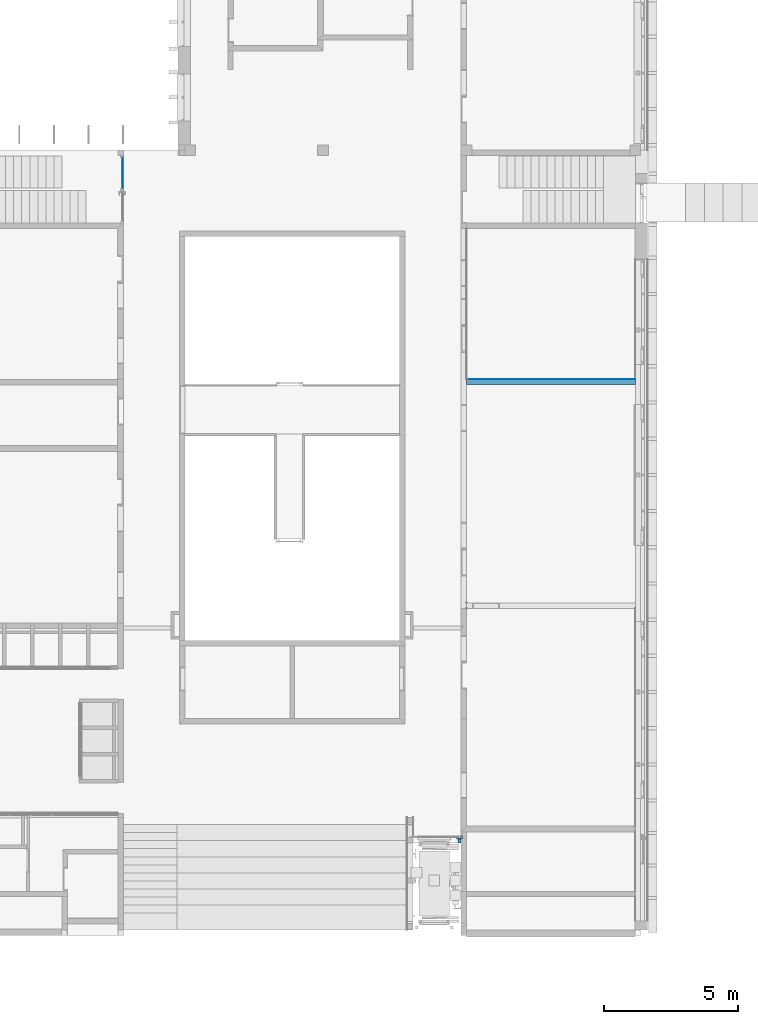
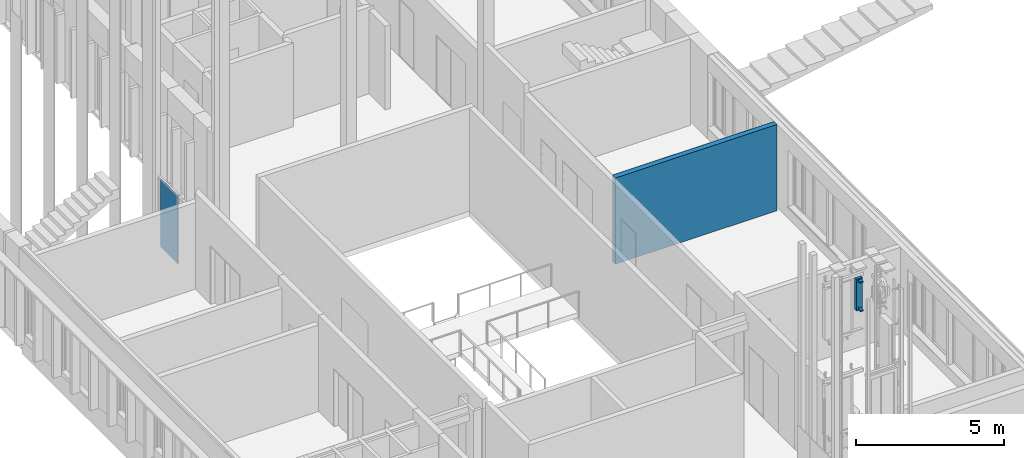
# One storey, part 54 of 89: 5 building element parts, 4 elements without a shape of their own.
"""IFC2X3 building model written with IfcOpenShell, lengths in millimetres."""

from ifc_helpers import new_model, entity, si_unit, converted_unit, derived_unit, money_unit, direction, frame, origin_with_axes, place, context, subcontext, project, spatial, polyline, outline, extrude, boolean, faceted_brep, material, type_object, element, aggregate, save


model = new_model("IFC2X3")

# Units and contexts
model_context = context("Model", 3, precision=0.01, world=origin_with_axes(), true_north=direction((0.0, 1.0)))
body_context = subcontext(model_context, "Body", "Model", "MODEL_VIEW")
ifc_project = project(units=[si_unit("LENGTHUNIT", "METRE", prefix="MILLI"), si_unit("AREAUNIT", "SQUARE_METRE"), si_unit("VOLUMEUNIT", "CUBIC_METRE"), converted_unit("PLANEANGLEUNIT", "DEGREE", entity("IfcPlaneAngleMeasure", 0.0174532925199), si_unit("PLANEANGLEUNIT", "RADIAN"), dimensions=[0, 0, 0, 0, 0, 0, 0]), si_unit("SOLIDANGLEUNIT", "STERADIAN"), money_unit("EUR"), converted_unit("TIMEUNIT", "Year", entity("IfcTimeMeasure", 31556926.0), si_unit("TIMEUNIT", "SECOND"), dimensions=[0, 0, 1, 0, 0, 0, 0]), si_unit("MASSUNIT", "GRAM", prefix="KILO"), si_unit("THERMODYNAMICTEMPERATUREUNIT", "DEGREE_CELSIUS"), si_unit("LUMINOUSINTENSITYUNIT", "LUMEN"), si_unit("ENERGYUNIT", "JOULE", prefix="MEGA"), derived_unit("THERMALCONDUCTANCEUNIT", [(si_unit("POWERUNIT", "WATT"), 1), (si_unit("LENGTHUNIT", "METRE"), -1), (si_unit("THERMODYNAMICTEMPERATUREUNIT", "KELVIN"), -1)]), derived_unit("SPECIFICHEATCAPACITYUNIT", [(si_unit("ENERGYUNIT", "JOULE"), 1), (si_unit("MASSUNIT", "GRAM", prefix="KILO"), -1), (si_unit("THERMODYNAMICTEMPERATUREUNIT", "KELVIN"), -1)]), derived_unit("MASSDENSITYUNIT", [(si_unit("MASSUNIT", "GRAM", prefix="KILO"), 1), (si_unit("VOLUMEUNIT", "CUBIC_METRE"), -1)])], contexts=[model_context])

# Site, building, storey
site_placement = place(None, origin_with_axes())
site = spatial("IfcSite", under=ifc_project, at=site_placement, Name="Puškini 31, Narva", CompositionType="ELEMENT")
building_placement = place(site_placement, origin_with_axes())
building = spatial("IfcBuilding", under=site, at=building_placement, Name="Narva Riigigümnaasium", CompositionType="ELEMENT")
storey_placement = place(building_placement, frame((0.0, 0.0, -3300.0), z_axis=(0.0, 0.0, 1.0), x_axis=(1.0, 0.0, 0.0)))
storey = spatial("IfcBuildingStorey", under=building, at=storey_placement, Name="1.korrus -3.3", CompositionType="ELEMENT", Elevation=-3300.0)

# Wall, building element parts
wall_type = type_object("IfcWallType", Name="G-SS-01-02 210", PredefinedType="NOTDEFINED")
wall_placement = place(storey_placement, frame((47499.9999802, 215250.0, 0.0), z_axis=(0.0, 0.0, 1.0), x_axis=(1.0, 0.0, 0.0)))
wall = element("IfcWall", 1, at=wall_placement, inside=storey, type_object=wall_type, Name="Sisesein")
ifc_material_1 = material(Name="siseviimistlus-seinad")
building_element_part_1_placement = place(wall_placement, origin_with_axes())
building_element_part_1 = element("IfcBuildingElementPart", 2, at=building_element_part_1_placement, material=ifc_material_1, Name="siseviimistlus-seinad", context=body_context, shape_type="CSG", body=[
    boolean("DIFFERENCE", boolean("DIFFERENCE", extrude(outline(polyline([(0.0, 200.0), (6958.00002087, 200.0), (6958.00002087, 210.0), (0.0, 210.0), (0.0, 200.0)])), origin_with_axes(), (0.0, 0.0, 1.0), 3565.0), faceted_brep([(210.000012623, 210.0, 3555.0), (210.000012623, 210.0, 0.0), (0.0, 210.0, 0.0), (0.0, 210.0, 3565.0), (6958.00002087, 210.0, 3565.0), (6958.00002087, 210.0, 0.0), (6500.00002087, 210.0, 0.0), (6500.00002087, 210.0, 136.939766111), (6490.00002087, 210.0, 136.939766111), (6490.00002087, 210.0, 3555.0), (210.000012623, 200.0, 3555.0), (210.000012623, 200.000000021, 0.0), (0.0, 200.0, 0.0), (0.0, 200.0, 3565.0), (6958.00002087, 200.0, 3565.0), (6958.00002087, 200.0, 0.0), (6500.00002087, 200.000000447, 0.0), (6500.00002087, 200.00000043, 136.939766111), (6490.00002087, 200.0, 136.939766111), (6490.00002087, 200.000000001, 3555.0)], [[[0, 1, 2, 3, 4, 5, 6, 7, 8, 9]], [[1, 0, 10, 11]], [[1, 11, 12, 2]], [[3, 2, 12, 13]], [[3, 13, 14, 4]], [[14, 15, 5, 4]], [[16, 6, 5, 15]], [[7, 6, 16, 17]], [[8, 7, 17, 18]], [[9, 8, 18, 19]], [[0, 9, 19, 10]], [[17, 16, 15, 14, 13, 12, 11, 10, 19, 18]]])), faceted_brep([(6500.00002087, 200.000000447, 0.0), (6500.00002087, 200.000000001, 3555.0), (200.000012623, 200.0, 3555.0), (200.000012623, 200.00000002, 0.0), (0.0, 200.0, 0.0), (0.0, 200.0, 3565.0), (6958.00002087, 200.0, 3565.0), (6958.00002087, 200.0, 0.0), (6500.00002087, 0.0, 0.0), (6500.00002087, 0.0, 136.939766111), (6500.00002087, 0.0, 3555.0), (200.000012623, 0.0, 3555.0), (200.000012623, 0.0, 0.0), (0.0, 0.0, 0.0), (0.0, 0.0, 3565.0), (6958.00002087, 0.0, 3565.0), (6958.00002087, 0.0, 0.0)], [[[0, 1, 2, 3, 4, 5, 6, 7]], [[1, 0, 8, 9, 10]], [[1, 10, 11, 2]], [[3, 2, 11, 12]], [[3, 12, 13, 4]], [[5, 4, 13, 14]], [[5, 14, 15, 6]], [[15, 16, 7, 6]], [[8, 0, 7, 16]], [[9, 8, 16, 15, 14, 13, 12, 11, 10]]])),
])
ifc_material_2 = material(Name="Betoon element")
building_element_part_2_placement = place(wall_placement, origin_with_axes())
building_element_part_2 = element("IfcBuildingElementPart", 3, at=building_element_part_2_placement, material=ifc_material_2, Name="Betoon element", context=body_context, shape_type="CSG", body=[
    boolean("DIFFERENCE", boolean("DIFFERENCE", extrude(outline(polyline([(0.0, 0.0), (6958.00002087, 0.0), (6958.00002087, 200.0), (0.0, 200.0), (0.0, 0.0)])), origin_with_axes(), (0.0, 0.0, 1.0), 3565.0), faceted_brep([(210.000012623, 210.0, 3555.0), (210.000012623, 210.0, 0.0), (0.0, 210.0, 0.0), (0.0, 210.0, 3565.0), (6958.00002087, 210.0, 3565.0), (6958.00002087, 210.0, 0.0), (6500.00002087, 210.0, 0.0), (6500.00002087, 210.0, 136.939766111), (6490.00002087, 210.0, 136.939766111), (6490.00002087, 210.0, 3555.0), (210.000012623, 200.0, 3555.0), (210.000012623, 200.000000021, 0.0), (0.0, 200.0, 0.0), (0.0, 200.0, 3565.0), (6958.00002087, 200.0, 3565.0), (6958.00002087, 200.0, 0.0), (6500.00002087, 200.000000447, 0.0), (6500.00002087, 200.00000043, 136.939766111), (6490.00002087, 200.0, 136.939766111), (6490.00002087, 200.000000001, 3555.0)], [[[0, 1, 2, 3, 4, 5, 6, 7, 8, 9]], [[1, 0, 10, 11]], [[1, 11, 12, 2]], [[3, 2, 12, 13]], [[3, 13, 14, 4]], [[14, 15, 5, 4]], [[16, 6, 5, 15]], [[7, 6, 16, 17]], [[8, 7, 17, 18]], [[9, 8, 18, 19]], [[0, 9, 19, 10]], [[17, 16, 15, 14, 13, 12, 11, 10, 19, 18]]])), faceted_brep([(6500.00002087, 200.000000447, 0.0), (6500.00002087, 200.000000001, 3555.0), (200.000012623, 200.0, 3555.0), (200.000012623, 200.00000002, 0.0), (0.0, 200.0, 0.0), (0.0, 200.0, 3565.0), (6958.00002087, 200.0, 3565.0), (6958.00002087, 200.0, 0.0), (6500.00002087, 0.0, 0.0), (6500.00002087, 0.0, 136.939766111), (6500.00002087, 0.0, 3555.0), (200.000012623, 0.0, 3555.0), (200.000012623, 0.0, 0.0), (0.0, 0.0, 0.0), (0.0, 0.0, 3565.0), (6958.00002087, 0.0, 3565.0), (6958.00002087, 0.0, 0.0)], [[[0, 1, 2, 3, 4, 5, 6, 7]], [[1, 0, 8, 9, 10]], [[1, 10, 11, 2]], [[3, 2, 11, 12]], [[3, 12, 13, 4]], [[5, 4, 13, 14]], [[5, 14, 15, 6]], [[15, 16, 7, 6]], [[8, 0, 7, 16]], [[9, 8, 16, 15, 14, 13, 12, 11, 10]]])),
])
aggregate(wall, [building_element_part_1, building_element_part_2])

# Curtain wall, plate, building element parts
curtain_wall_type = type_object("IfcCurtainWallType", Name="Curtain Wall Type", PredefinedType="NOTDEFINED")
curtain_wall_placement = place(storey_placement, frame((34855.0104166, 221770.599999, -2.45869391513e-05), z_axis=(0.0, 0.0, 1.0), x_axis=(1.0, 0.0, 0.0)))
curtain_wall = element("IfcCurtainWall", 4, at=curtain_wall_placement, inside=storey, type_object=curtain_wall_type, Name="G-SKLF-08")
plate_type = type_object("IfcPlateType", Name="Distinct Panel 1248 x 519 x 20", PredefinedType="CURTAIN_PANEL")
plate_placement = place(curtain_wall_placement, frame((-0.00553805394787, 1286.25714249, 1528.57145073), z_axis=(0.0, 0.0, 1.0), x_axis=(4.3055573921e-06, -0.999999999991, 0.0)))
plate = element("IfcPlate", 5, at=plate_placement, type_object=plate_type, Name="G-SKLF-08-klaas", ObjectType="CURTAIN_PANEL")
aggregate(curtain_wall, [plate])
ifc_material_3 = material(Name="VKR-05_Klaas")
building_element_part_3_placement = place(plate_placement, origin_with_axes())
building_element_part_3 = element("IfcBuildingElementPart", 6, at=building_element_part_3_placement, material=ifc_material_3, Name="VKR-05_Klaas", context=body_context, shape_type="Brep", body=[
    faceted_brep([(-681.978148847, 17.0, 1360.26383913), (494.492381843, 17.0, 1360.26388309), (494.492381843, 22.0, 1360.26388309), (-681.978148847, 22.0, 1360.26383913), (-681.978148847, 17.0, -1467.40673537), (494.492381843, 17.0, -1467.40673537), (494.492381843, 22.0, -1467.40673537), (-681.978148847, 22.0, -1467.40673537)], [[[0, 1, 2, 3]], [[0, 4, 5, 1]], [[1, 5, 6, 2]], [[3, 2, 6, 7]], [[4, 0, 3, 7]], [[5, 4, 7, 6]]]),
    faceted_brep([(-681.978148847, 28.0, 1360.26383913), (494.492381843, 28.0, 1360.26388309), (494.492381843, 33.0, 1360.26388309), (-681.978148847, 33.0, 1360.26383913), (-681.978148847, 28.0, -1467.40673537), (494.492381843, 28.0, -1467.40673537), (494.492381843, 33.0, -1467.40673537), (-681.978148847, 33.0, -1467.40673537)], [[[0, 1, 2, 3]], [[0, 4, 5, 1]], [[1, 5, 6, 2]], [[3, 2, 6, 7]], [[4, 0, 3, 7]], [[5, 4, 7, 6]]]),
])
ifc_material_4 = material(Name="VKR-06_Õhkvahe")
building_element_part_4_placement = place(plate_placement, origin_with_axes())
building_element_part_4 = element("IfcBuildingElementPart", 7, at=building_element_part_4_placement, material=ifc_material_4, Name="VKR-06_Õhkvahe", context=body_context, shape_type="Brep", body=[
    faceted_brep([(-681.978148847, 22.0, 1360.26383913), (494.492381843, 22.0, 1360.26388309), (494.492381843, 28.0, 1360.26388309), (-681.978148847, 28.0, 1360.26383913), (-681.978148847, 22.0, -1467.40673537), (494.492381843, 22.0, -1467.40673537), (494.492381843, 28.0, -1467.40673537), (-681.978148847, 28.0, -1467.40673537)], [[[0, 1, 2, 3]], [[0, 4, 5, 1]], [[1, 5, 6, 2]], [[3, 2, 6, 7]], [[4, 0, 3, 7]], [[5, 4, 7, 6]]]),
])
aggregate(plate, [building_element_part_3, building_element_part_4])

# Transport element, building element part
transport_element_type = type_object("IfcTransportElementType", Name="narg LIFT", PredefinedType="NOTDEFINED")
transport_element_placement = place(storey_placement, frame((45910.0524534, 195097.228086, -1250.0), z_axis=(0.0, 0.0, 1.0), x_axis=(1.0, 0.0, 0.0)))
transport_element = element("IfcTransportElement", 8, at=transport_element_placement, inside=storey, type_object=transport_element_type, Name="Lift")
ifc_material_5 = material(Name="Void")
building_element_part_5_placement = place(transport_element_placement, origin_with_axes())
building_element_part_5 = element("IfcBuildingElementPart", 9, at=building_element_part_5_placement, material=ifc_material_5, Name="Void", context=body_context, shape_type="Brep", body=[
    faceted_brep([(1415.0, 3213.5, 9720.0), (1415.0, 3213.5, 9721.5), (1415.0, 3303.5, 9721.5), (1415.0, 3303.5, 9720.0), (1645.0, 3213.5, 9720.0), (1645.0, 3213.5, 9721.5), (1645.0, 3303.5, 9721.5), (1609.9, 3303.5, 9721.5), (1450.1, 3303.5, 9721.5), (1450.1, 3303.5, 9720.0), (1450.1, 3305.0, 9720.0), (1609.9, 3305.0, 9720.0), (1609.9, 3303.5, 9720.0), (1645.0, 3303.5, 9720.0), (1609.9, 3303.5, 9740.0), (1450.1, 3303.5, 9740.0), (1450.1, 3334.6, 9740.0), (1450.1, 3334.6, 9738.5), (1450.1, 3305.0, 9738.5), (1609.9, 3305.0, 9738.5), (1609.9, 3334.6, 9738.5), (1609.9, 3334.6, 9740.0)], [[[0, 1, 2, 3]], [[1, 0, 4, 5]], [[2, 1, 5, 6, 7, 8]], [[8, 9, 3, 2]], [[4, 0, 3, 9, 10, 11, 12, 13]], [[6, 5, 4, 13]], [[12, 7, 6, 13]], [[14, 15, 8, 7]], [[9, 8, 15, 16, 17, 18, 10]], [[11, 10, 18, 19]], [[7, 12, 11, 19, 20, 21, 14]], [[21, 16, 15, 14]], [[20, 17, 16, 21]], [[19, 18, 17, 20]]]),
    faceted_brep([(1415.0, 3303.5, 11034.5), (1415.0, 3213.5, 11034.5), (1415.0, 3213.5, 11036.0), (1415.0, 3303.5, 11036.0), (1450.1, 3303.5, 11034.5), (1609.9, 3303.5, 11034.5), (1645.0, 3303.5, 11034.5), (1645.0, 3213.5, 11034.5), (1645.0, 3213.5, 11036.0), (1645.0, 3303.5, 11036.0), (1609.9, 3303.5, 11036.0), (1609.9, 3305.0, 11036.0), (1450.1, 3305.0, 11036.0), (1450.1, 3303.5, 11036.0), (1450.1, 3303.5, 11016.0), (1609.9, 3303.5, 11016.0), (1609.9, 3334.6, 11016.0), (1609.9, 3334.6, 11017.5), (1609.9, 3305.0, 11017.5), (1450.1, 3305.0, 11017.5), (1450.1, 3334.6, 11017.5), (1450.1, 3334.6, 11016.0)], [[[0, 1, 2, 3]], [[1, 0, 4, 5, 6, 7]], [[2, 1, 7, 8]], [[2, 8, 9, 10, 11, 12, 13, 3]], [[13, 4, 0, 3]], [[14, 15, 5, 4]], [[5, 10, 9, 6]], [[8, 7, 6, 9]], [[10, 5, 15, 16, 17, 18, 11]], [[12, 11, 18, 19]], [[4, 13, 12, 19, 20, 21, 14]], [[21, 16, 15, 14]], [[20, 17, 16, 21]], [[19, 18, 17, 20]]]),
    faceted_brep([(1413.5, 3342.5, 11036.0), (1646.5, 3342.5, 11036.0), (1646.5, 3342.5, 9720.0), (1413.5, 3342.5, 9720.0), (1413.5, 3307.5, 11036.0), (1646.5, 3307.5, 11036.0), (1646.5, 3307.5, 9720.0), (1413.5, 3307.5, 9720.0), (1645.0, 3307.5, 11034.5), (1645.0, 3307.5, 9721.5), (1415.0, 3307.5, 9721.5), (1415.0, 3307.5, 11034.5), (1645.0, 3341.0, 11034.5), (1645.0, 3341.0, 9721.5), (1415.0, 3341.0, 9721.5), (1415.0, 3341.0, 11034.5)], [[[0, 1, 2, 3]], [[1, 0, 4, 5]], [[2, 1, 5, 6]], [[3, 2, 6, 7]], [[0, 3, 7, 4]], [[4, 7, 6, 5], [8, 9, 10, 11]], [[12, 13, 9, 8]], [[13, 14, 10, 9]], [[14, 15, 11, 10]], [[15, 12, 8, 11]], [[12, 15, 14, 13]]]),
    faceted_brep([(1413.5, 3305.0, 9720.0), (1413.5, 3305.0, 11036.0), (1450.0, 3305.0, 11036.0), (1450.0, 3305.0, 11016.0), (1448.5, 3305.0, 11016.0), (1448.5, 3305.0, 9740.0), (1450.0, 3305.0, 9740.0), (1450.0, 3305.0, 9720.0), (1413.5, 3212.0, 9720.0), (1413.5, 3212.0, 11036.0), (1646.5, 3305.0, 11036.0), (1621.5, 3305.0, 11036.0), (1621.5, 3303.5, 11036.0), (1645.0, 3303.5, 11036.0), (1645.0, 3213.5, 11036.0), (1415.0, 3213.5, 11036.0), (1415.0, 3303.5, 11036.0), (1450.0, 3303.5, 11036.0), (1646.5, 3212.0, 11036.0), (1450.0, 3334.5, 9740.0), (1450.0, 3334.5, 11016.0), (1450.0, 3303.5, 9720.0), (1448.5, 3334.5, 11016.0), (1448.5, 3334.5, 9740.0), (1415.0, 3303.5, 9720.0), (1415.0, 3213.5, 9720.0), (1645.0, 3213.5, 9720.0), (1645.0, 3303.5, 9720.0), (1621.5, 3303.5, 9720.0), (1621.5, 3305.0, 9720.0), (1646.5, 3305.0, 9720.0), (1646.5, 3212.0, 9720.0), (1443.72148213, 3212.0, 9881.68232379), (1621.5, 3305.0, 9740.0), (1623.0, 3305.0, 9740.0), (1623.0, 3305.0, 11016.0), (1621.5, 3305.0, 11016.0), (1621.5, 3334.5, 11016.0), (1621.5, 3334.5, 9740.0), (1556.5, 3213.5, 10995.5), (1503.5, 3212.0, 10995.5), (1556.5, 3213.5, 9760.5), (1503.5, 3212.0, 9760.5), (1443.5, 3212.0, 9880.0), (1453.72148213, 3212.0, 10864.3176762), (1623.0, 3334.5, 9740.0), (1623.0, 3334.5, 11016.0), (1616.27851787, 3213.5, 10874.3176762), (1503.5, 3213.5, 10995.5), (1591.5, 3213.5, 10995.5), (1443.72148213, 3213.5, 9881.68232379), (1556.5, 3212.0, 10995.5), (1468.5, 3212.0, 10995.5), (1616.27851787, 3212.0, 10874.3176762), (1591.5, 3213.5, 9760.5), (1503.5, 3213.5, 9760.5), (1468.5, 3212.0, 9760.5), (1556.5, 3212.0, 9760.5), (1443.72148213, 3212.0, 9878.31767621), (1443.5, 3213.5, 9880.0), (1453.5, 3212.0, 10866.0), (1444.37083488, 3212.0, 9883.25), (1616.5, 3213.5, 10876.0), (1606.27851787, 3213.5, 9891.68232379), (1556.5, 3213.5, 10940.5), (1468.5, 3213.5, 10995.5), (1591.5, 3212.0, 10995.5), (1591.5, 3213.5, 10940.5), (1453.72148213, 3213.5, 10864.3176762), (1503.5, 3212.0, 10940.5), (1468.5, 3212.0, 10940.5), (1606.27851787, 3212.0, 9891.68232379), (1616.5, 3212.0, 10876.0), (1591.5, 3212.0, 9760.5), (1591.5, 3213.5, 9815.5), (1468.5, 3213.5, 9760.5), (1556.5, 3213.5, 9815.5), (1468.5, 3212.0, 9815.5), (1503.5, 3212.0, 9815.5), (1443.72148213, 3213.5, 9878.31767621), (1444.37083488, 3212.0, 9876.75), (1444.37083488, 3213.5, 9883.25), (1453.5, 3213.5, 10866.0), (1453.5, 3212.0, 10886.0), (1454.37083488, 3212.0, 10862.75), (1616.27851787, 3213.5, 10877.6823238), (1606.5, 3213.5, 9890.0), (1615.62916512, 3213.5, 10872.75), (1556.5, 3212.0, 10940.5), (1503.5, 3213.5, 10940.5), (1468.5, 3213.5, 10940.5), (1591.5, 3212.0, 10940.5), (1614.59619408, 3213.5, 10880.5961941), (1454.37083488, 3212.0, 10889.25), (1615.62916512, 3212.0, 10872.75), (1606.5, 3212.0, 9890.0), (1616.27851787, 3212.0, 10877.6823238), (1591.5, 3212.0, 9815.5), (1556.5, 3212.0, 9815.5), (1605.62916512, 3213.5, 9866.75), (1468.5, 3213.5, 9815.5), (1503.5, 3213.5, 9815.5), (1445.40380592, 3212.0, 9875.40380592), (1444.37083488, 3213.5, 9876.75), (1445.40380592, 3213.5, 9884.59619408), (1445.40380592, 3212.0, 9884.59619408), (1454.37083488, 3213.5, 10862.75), (1453.5, 3213.5, 10886.0), (1453.72148213, 3212.0, 10887.6823238), (1615.62916512, 3213.5, 10879.25), (1606.5, 3213.5, 9870.0), (1605.62916512, 3213.5, 9893.25), (1583.72148213, 3213.5, 10877.6823238), (1454.37083488, 3213.5, 10889.25), (1613.25, 3213.5, 10881.6291651), (1583.72148213, 3212.0, 10877.6823238), (1614.59619408, 3212.0, 10880.5961941), (1455.40380592, 3212.0, 10890.5961941), (1605.62916512, 3212.0, 9893.25), (1606.5, 3212.0, 9870.0), (1615.62916512, 3212.0, 10879.25), (1606.27851787, 3213.5, 9868.31767621), (1604.59619408, 3213.5, 9865.40380592), (1445.40380592, 3213.5, 9875.40380592), (1476.27851787, 3213.5, 9878.31767621), (1446.75, 3212.0, 9874.37083488), (1605.62916512, 3212.0, 9866.75), (1476.27851787, 3212.0, 9878.31767621), (1446.75, 3212.0, 9885.62916512), (1446.75, 3213.5, 9885.62916512), (1455.40380592, 3212.0, 10861.4038059), (1455.40380592, 3213.5, 10861.4038059), (1453.72148213, 3213.5, 10887.6823238), (1614.59619408, 3213.5, 10871.4038059), (1614.59619408, 3212.0, 10871.4038059), (1586.75, 3213.5, 10881.6291651), (1586.75, 3212.0, 10881.6291651), (1584.37083488, 3213.5, 10879.25), (1466.5, 3213.5, 10886.0), (1455.40380592, 3213.5, 10890.5961941), (1611.68232379, 3213.5, 10882.2785179), (1613.25, 3212.0, 10881.6291651), (1464.59619408, 3213.5, 10890.5961941), (1464.59619408, 3212.0, 10890.5961941), (1466.5, 3212.0, 10886.0), (1584.37083488, 3212.0, 10879.25), (1456.75, 3212.0, 10891.6291651), (1606.27851787, 3212.0, 9868.31767621), (1595.40380592, 3213.5, 9865.40380592), (1595.40380592, 3212.0, 9865.40380592), (1603.25, 3213.5, 9864.37083488), (1604.59619408, 3212.0, 9865.40380592), (1446.75, 3213.5, 9874.37083488), (1475.62916512, 3213.5, 9876.75), (1593.5, 3213.5, 9870.0), (1473.25, 3213.5, 9874.37083488), (1473.25, 3212.0, 9874.37083488), (1448.31767621, 3212.0, 9873.72148213), (1475.62916512, 3212.0, 9876.75), (1593.5, 3212.0, 9870.0), (1448.31767621, 3212.0, 9886.27851787), (1448.31767621, 3213.5, 9886.27851787), (1456.75, 3212.0, 10860.3708349), (1456.75, 3213.5, 10860.3708349), (1613.25, 3212.0, 10870.3708349), (1613.25, 3213.5, 10870.3708349), (1604.59619408, 3212.0, 9894.59619408), (1604.59619408, 3213.5, 9894.59619408), (1588.31767621, 3213.5, 10882.2785179), (1585.40380592, 3213.5, 10880.5961941), (1585.40380592, 3212.0, 10880.5961941), (1588.31767621, 3212.0, 10882.2785179), (1466.27851787, 3213.5, 10887.6823238), (1583.5, 3213.5, 10876.0), (1456.75, 3213.5, 10891.6291651), (1611.68232379, 3212.0, 10882.2785179), (1610.0, 3213.5, 10882.5), (1465.62916512, 3213.5, 10889.25), (1463.25, 3213.5, 10891.6291651), (1463.25, 3212.0, 10891.6291651), (1465.62916512, 3212.0, 10889.25), (1583.5, 3212.0, 10876.0), (1466.27851787, 3212.0, 10887.6823238), (1458.31767621, 3212.0, 10892.2785179), (1596.75, 3213.5, 9864.37083488), (1594.37083488, 3213.5, 9866.75), (1596.75, 3212.0, 9864.37083488), (1594.37083488, 3212.0, 9866.75), (1603.25, 3212.0, 9864.37083488), (1601.68232379, 3213.5, 9863.72148213), (1448.31767621, 3213.5, 9873.72148213), (1474.59619408, 3213.5, 9875.40380592), (1593.72148213, 3213.5, 9868.31767621), (1476.5, 3213.5, 9880.0), (1471.68232379, 3213.5, 9873.72148213), (1474.59619408, 3212.0, 9875.40380592), (1471.68232379, 3212.0, 9873.72148213), (1450.0, 3212.0, 9873.5), (1593.72148213, 3212.0, 9868.31767621), (1476.5, 3212.0, 9880.0), (1450.0, 3213.5, 9886.5), (1450.0, 3212.0, 9886.5), (1458.31767621, 3212.0, 10859.7214821), (1458.31767621, 3213.5, 10859.7214821), (1611.68232379, 3212.0, 10869.7214821), (1611.68232379, 3213.5, 10869.7214821), (1603.25, 3212.0, 9895.62916512), (1603.25, 3213.5, 9895.62916512), (1590.0, 3213.5, 10882.5), (1590.0, 3212.0, 10882.5), (1466.5, 3213.5, 10866.0), (1458.31767621, 3213.5, 10892.2785179), (1610.0, 3212.0, 10882.5), (1461.68232379, 3213.5, 10892.2785179), (1461.68232379, 3212.0, 10892.2785179), (1466.5, 3212.0, 10866.0), (1460.0, 3212.0, 10892.5), (1598.31767621, 3213.5, 9863.72148213), (1598.31767621, 3212.0, 9863.72148213), (1601.68232379, 3212.0, 9863.72148213), (1600.0, 3213.5, 9863.5), (1450.0, 3213.5, 9873.5), (1593.5, 3213.5, 9890.0), (1470.0, 3213.5, 9873.5), (1470.0, 3212.0, 9873.5), (1593.5, 3212.0, 9890.0), (1470.0, 3212.0, 9886.5), (1470.0, 3213.5, 9886.5), (1460.0, 3212.0, 10859.5), (1460.0, 3213.5, 10859.5), (1610.0, 3213.5, 10869.5), (1610.0, 3212.0, 10869.5), (1601.68232379, 3212.0, 9896.27851787), (1601.68232379, 3213.5, 9896.27851787), (1583.72148213, 3212.0, 10874.3176762), (1583.72148213, 3213.5, 10874.3176762), (1460.0, 3213.5, 10892.5), (1600.0, 3212.0, 9863.5), (1476.27851787, 3212.0, 9881.68232379), (1476.27851787, 3213.5, 9881.68232379), (1471.68232379, 3213.5, 9886.27851787), (1471.68232379, 3212.0, 9886.27851787), (1461.68232379, 3212.0, 10859.7214821), (1461.68232379, 3213.5, 10859.7214821), (1590.0, 3213.5, 10869.5), (1590.0, 3212.0, 10869.5), (1600.0, 3212.0, 9896.5), (1600.0, 3213.5, 9896.5), (1584.37083488, 3212.0, 10872.75), (1584.37083488, 3213.5, 10872.75), (1466.27851787, 3213.5, 10864.3176762), (1466.27851787, 3212.0, 10864.3176762), (1475.62916512, 3212.0, 9883.25), (1475.62916512, 3213.5, 9883.25), (1593.72148213, 3213.5, 9891.68232379), (1593.72148213, 3212.0, 9891.68232379), (1598.31767621, 3212.0, 9896.27851787), (1598.31767621, 3213.5, 9896.27851787), (1473.25, 3213.5, 9885.62916512), (1473.25, 3212.0, 9885.62916512), (1463.25, 3212.0, 10860.3708349), (1463.25, 3213.5, 10860.3708349), (1588.31767621, 3213.5, 10869.7214821), (1588.31767621, 3212.0, 10869.7214821), (1585.40380592, 3212.0, 10871.4038059), (1585.40380592, 3213.5, 10871.4038059), (1465.62916512, 3213.5, 10862.75), (1465.62916512, 3212.0, 10862.75), (1474.59619408, 3212.0, 9884.59619408), (1474.59619408, 3213.5, 9884.59619408), (1594.37083488, 3213.5, 9893.25), (1594.37083488, 3212.0, 9893.25), (1596.75, 3213.5, 9895.62916512), (1596.75, 3212.0, 9895.62916512), (1464.59619408, 3212.0, 10861.4038059), (1464.59619408, 3213.5, 10861.4038059), (1586.75, 3213.5, 10870.3708349), (1586.75, 3212.0, 10870.3708349), (1595.40380592, 3213.5, 9894.59619408), (1595.40380592, 3212.0, 9894.59619408)], [[[0, 1, 2, 3, 4, 5, 6, 7]], [[0, 8, 9, 1]], [[10, 11, 12, 13, 14, 15, 16, 17, 2, 1, 9, 18]], [[6, 19, 20, 3, 2, 17, 21, 7]], [[20, 22, 4, 3]], [[23, 5, 4, 22]], [[19, 6, 5, 23]], [[0, 7, 21, 24, 25, 26, 27, 28, 29, 30, 31, 8]], [[8, 32, 9]], [[29, 33, 34, 35, 36, 11, 10, 30]], [[29, 28, 12, 11, 36, 37, 38, 33]], [[28, 27, 13, 12]], [[27, 26, 14, 13]], [[39, 15, 14]], [[25, 24, 16, 15]], [[24, 21, 17, 16]], [[40, 18, 9]], [[31, 30, 10, 18]], [[19, 23, 22, 20]], [[41, 26, 25]], [[42, 8, 31]], [[32, 8, 43]], [[44, 9, 32]], [[34, 33, 38, 45]], [[34, 45, 46, 35]], [[35, 46, 37, 36]], [[45, 38, 37, 46]], [[47, 14, 26]], [[15, 39, 48]], [[49, 39, 14]], [[25, 15, 50]], [[18, 40, 51]], [[40, 9, 52]], [[53, 31, 18]], [[41, 54, 26]], [[25, 55, 41]], [[56, 8, 42]], [[31, 57, 42]], [[58, 43, 8]], [[43, 59, 50, 32]], [[44, 60, 9]], [[32, 61, 44]], [[47, 62, 14]], [[26, 63, 47]], [[39, 64, 48]], [[65, 15, 48]], [[51, 39, 49, 66]], [[49, 14, 67]], [[68, 50, 15]], [[59, 25, 50]], [[40, 69, 51]], [[18, 51, 66]], [[9, 70, 52]], [[52, 65, 48, 40]], [[31, 53, 71]], [[72, 53, 18]], [[73, 54, 41, 57]], [[26, 54, 74]], [[25, 75, 55]], [[41, 55, 76]], [[56, 77, 8]], [[56, 42, 55, 75]], [[73, 57, 31]], [[78, 42, 57]], [[58, 79, 59, 43]], [[8, 80, 58]], [[32, 50, 81, 61]], [[44, 68, 82, 60]], [[60, 83, 9]], [[84, 44, 61]], [[72, 62, 47, 53]], [[85, 14, 62]], [[63, 26, 86]], [[87, 47, 63]], [[51, 88, 64, 39]], [[89, 48, 64]], [[15, 65, 90]], [[91, 66, 49, 67]], [[14, 92, 67]], [[81, 50, 68]], [[82, 68, 15]], [[59, 79, 25]], [[69, 40, 48, 89]], [[88, 51, 69]], [[18, 66, 91]], [[9, 93, 70]], [[52, 70, 90, 65]], [[53, 94, 71]], [[95, 31, 71]], [[96, 72, 18]], [[97, 74, 54, 73]], [[57, 41, 76, 98]], [[99, 26, 74]], [[25, 100, 75]], [[55, 101, 76]], [[56, 75, 100, 77]], [[77, 102, 8]], [[78, 101, 55, 42]], [[73, 31, 97]], [[57, 98, 78]], [[58, 80, 103, 79]], [[102, 80, 8]], [[104, 105, 61, 81]], [[44, 84, 106, 68]], [[83, 60, 82, 107]], [[108, 9, 83]], [[61, 105, 84]], [[96, 85, 62, 72]], [[53, 47, 87, 94]], [[85, 109, 14]], [[110, 86, 26]], [[71, 63, 86, 95]], [[63, 111, 87]], [[91, 67, 64, 88]], [[64, 112, 89]], [[90, 113, 15]], [[92, 14, 109]], [[114, 67, 92]], [[68, 106, 81]], [[107, 82, 15]], [[25, 79, 103]], [[69, 89, 90, 70]], [[88, 69, 115]], [[116, 18, 91]], [[108, 93, 9]], [[70, 93, 117]], [[118, 71, 94]], [[95, 119, 31]], [[120, 96, 18]], [[98, 76, 74, 97]], [[99, 121, 26]], [[99, 74, 122]], [[25, 123, 100]], [[101, 124, 76]], [[77, 100, 101, 78]], [[125, 102, 77]], [[31, 126, 97]], [[127, 78, 98]], [[80, 102, 123, 103]], [[128, 105, 104, 129]], [[81, 106, 104]], [[84, 130, 131, 106]], [[83, 107, 132, 108]], [[130, 84, 105]], [[96, 120, 109, 85]], [[133, 134, 94, 87]], [[95, 86, 110, 119]], [[26, 121, 110]], [[71, 118, 111, 63]], [[133, 87, 111]], [[67, 135, 64]], [[91, 88, 136]], [[137, 112, 64]], [[138, 89, 112]], [[139, 113, 90]], [[113, 132, 15]], [[120, 116, 92, 109]], [[114, 140, 67]], [[92, 116, 141, 114]], [[132, 107, 15]], [[103, 123, 25]], [[90, 89, 142]], [[69, 70, 143]], [[144, 115, 69]], [[145, 88, 115]], [[120, 18, 116]], [[91, 141, 116]], [[108, 132, 113, 93]], [[139, 117, 93, 113]], [[146, 70, 117]], [[94, 134, 118]], [[31, 119, 147]], [[148, 74, 76]], [[97, 149, 98]], [[147, 121, 99, 126]], [[150, 122, 74]], [[122, 151, 126, 99]], [[152, 100, 123]], [[101, 153, 124]], [[154, 76, 124]], [[101, 100, 155]], [[78, 156, 77]], [[123, 102, 125, 152]], [[157, 125, 77]], [[147, 126, 31]], [[97, 126, 151]], [[78, 127, 158]], [[98, 159, 127]], [[105, 128, 130]], [[129, 104, 131]], [[160, 128, 129, 161]], [[131, 104, 106]], [[131, 130, 162, 163]], [[164, 134, 133, 165]], [[119, 110, 121, 147]], [[118, 166, 167, 111]], [[111, 167, 133]], [[168, 135, 67]], [[169, 64, 135]], [[136, 88, 170]], [[136, 171, 91]], [[115, 112, 137, 145]], [[169, 137, 64]], [[172, 89, 138]], [[138, 112, 173]], [[90, 174, 139]], [[175, 140, 114, 141]], [[67, 140, 176]], [[142, 89, 177]], [[142, 178, 90]], [[179, 143, 70]], [[180, 69, 143]], [[181, 115, 144]], [[182, 144, 69]], [[145, 170, 88]], [[175, 141, 91]], [[146, 117, 139, 174]], [[70, 146, 183]], [[118, 134, 166]], [[184, 74, 148]], [[76, 185, 148]], [[186, 149, 97]], [[149, 187, 98]], [[188, 151, 122, 150]], [[74, 189, 150]], [[190, 100, 152]], [[191, 153, 101]], [[127, 124, 153, 158]], [[154, 192, 76]], [[154, 124, 193]], [[194, 155, 100]], [[155, 191, 101]], [[195, 156, 78]], [[156, 196, 77]], [[157, 190, 152, 125]], [[157, 77, 197]], [[151, 188, 97]], [[158, 195, 78]], [[198, 159, 98]], [[127, 159, 199]], [[162, 130, 128]], [[131, 163, 129]], [[160, 162, 128]], [[129, 163, 161]], [[160, 161, 200, 201]], [[202, 203, 163, 162]], [[164, 166, 134]], [[165, 133, 167]], [[204, 164, 165, 205]], [[167, 166, 206, 207]], [[171, 136, 135, 168]], [[208, 168, 67]], [[136, 170, 169, 135]], [[91, 171, 209]], [[181, 173, 112, 115]], [[169, 170, 145, 137]], [[172, 177, 89]], [[182, 172, 138, 144]], [[173, 210, 138]], [[174, 90, 211]], [[212, 176, 140, 175]], [[208, 67, 176]], [[180, 143, 142, 177]], [[142, 143, 179, 178]], [[90, 178, 213]], [[179, 70, 214]], [[180, 182, 69]], [[215, 181, 144]], [[175, 91, 212]], [[183, 146, 174, 211]], [[183, 216, 70]], [[217, 74, 184]], [[148, 149, 186, 184]], [[185, 76, 192]], [[187, 149, 148, 185]], [[218, 186, 97]], [[98, 187, 198]], [[219, 188, 150, 189]], [[189, 74, 220]], [[100, 190, 221]], [[191, 195, 158, 153]], [[199, 193, 124, 127]], [[198, 192, 154, 159]], [[193, 222, 154]], [[196, 156, 155, 194]], [[100, 223, 194]], [[156, 195, 191, 155]], [[224, 77, 196]], [[197, 221, 190, 157]], [[77, 224, 197]], [[219, 97, 188]], [[159, 225, 199]], [[202, 162, 160]], [[163, 203, 161]], [[200, 161, 203]], [[226, 201, 200, 227]], [[160, 201, 202]], [[228, 229, 203, 202]], [[206, 166, 164]], [[167, 207, 165]], [[164, 204, 206]], [[205, 165, 207]], [[204, 205, 230, 231]], [[232, 233, 207, 206]], [[171, 168, 208, 209]], [[91, 209, 212]], [[234, 235, 173, 181]], [[182, 180, 177, 172]], [[144, 138, 210, 215]], [[235, 210, 173]], [[236, 211, 90]], [[209, 208, 176, 212]], [[214, 213, 178, 179]], [[90, 213, 236]], [[214, 70, 216]], [[215, 234, 181]], [[183, 211, 236, 216]], [[220, 74, 217]], [[218, 217, 184, 186]], [[198, 187, 185, 192]], [[237, 218, 97]], [[219, 189, 220, 237]], [[223, 100, 221]], [[238, 239, 193, 199]], [[225, 159, 154, 222]], [[222, 193, 239]], [[196, 194, 223, 224]], [[224, 223, 221, 197]], [[97, 219, 237]], [[225, 238, 199]], [[203, 229, 200]], [[201, 226, 228]], [[229, 227, 200]], [[226, 227, 240, 241]], [[228, 202, 201]], [[242, 243, 229, 228]], [[206, 204, 232]], [[233, 205, 207]], [[230, 205, 233]], [[231, 230, 244, 245]], [[204, 231, 232]], [[246, 247, 233, 232]], [[234, 248, 249, 235]], [[215, 210, 250, 251]], [[235, 250, 210]], [[216, 236, 213, 214]], [[251, 234, 215]], [[237, 220, 217, 218]], [[238, 252, 253, 239]], [[225, 222, 254, 255]], [[239, 254, 222]], [[238, 225, 255]], [[226, 256, 228]], [[227, 229, 257]], [[240, 227, 257]], [[241, 240, 258, 259]], [[226, 241, 256]], [[242, 260, 261, 243]], [[243, 257, 229]], [[228, 256, 242]], [[233, 247, 230]], [[230, 247, 244]], [[245, 244, 262, 263]], [[246, 231, 245]], [[246, 232, 231]], [[256, 257, 247, 246]], [[248, 234, 251]], [[248, 264, 265, 249]], [[235, 249, 250]], [[251, 250, 266, 267]], [[238, 255, 252]], [[252, 268, 269, 253]], [[253, 254, 239]], [[255, 254, 270, 271]], [[257, 272, 240]], [[240, 272, 258]], [[269, 268, 259, 258]], [[259, 273, 241]], [[273, 256, 241]], [[260, 242, 263]], [[260, 274, 275, 261]], [[243, 261, 262]], [[247, 257, 243]], [[256, 246, 242]], [[244, 247, 243]], [[262, 244, 243]], [[263, 262, 276, 277]], [[245, 263, 242]], [[245, 242, 246]], [[256, 273, 272, 257]], [[267, 248, 251]], [[264, 248, 267]], [[265, 264, 277, 276]], [[265, 266, 249]], [[249, 266, 250]], [[275, 274, 267, 266]], [[252, 255, 271]], [[252, 271, 268]], [[253, 269, 270]], [[253, 270, 254]], [[278, 279, 271, 270]], [[278, 258, 272]], [[259, 268, 279]], [[269, 258, 278]], [[273, 259, 279]], [[263, 277, 260]], [[274, 260, 277]], [[261, 275, 276]], [[276, 262, 261]], [[273, 279, 278, 272]], [[274, 264, 267]], [[277, 264, 274]], [[265, 276, 275]], [[275, 266, 265]], [[271, 279, 268]], [[278, 270, 269]]]),
    faceted_brep([(1470.0, 3212.0, 9755.0), (1470.0, 3212.0, 9815.0), (1590.0, 3212.0, 9815.0), (1590.0, 3212.0, 9755.0), (1470.0, 3062.0, 9755.0), (1470.0, 3062.0, 9815.0), (1590.0, 3062.0, 9815.0), (1590.0, 3062.0, 9755.0)], [[[0, 1, 2, 3]], [[1, 0, 4, 5]], [[2, 1, 5, 6]], [[3, 2, 6, 7]], [[0, 3, 7, 4]], [[4, 7, 6, 5]]]),
    faceted_brep([(1470.0, 3062.0, 10935.0), (1590.0, 3062.0, 10935.0), (1590.0, 3062.0, 10995.0), (1470.0, 3062.0, 10995.0), (1470.0, 3212.0, 10935.0), (1590.0, 3212.0, 10935.0), (1590.0, 3212.0, 10995.0), (1470.0, 3212.0, 10995.0)], [[[0, 1, 2, 3]], [[4, 5, 1, 0]], [[5, 6, 2, 1]], [[6, 7, 3, 2]], [[7, 4, 0, 3]], [[4, 7, 6, 5]]]),
])
aggregate(transport_element, [building_element_part_5])

save(model, "model.ifc")
